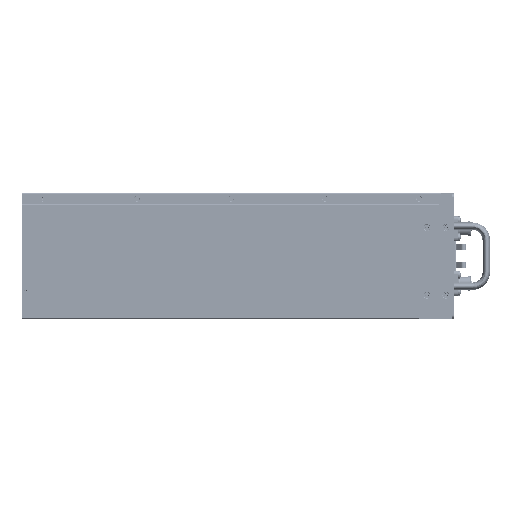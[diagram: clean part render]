
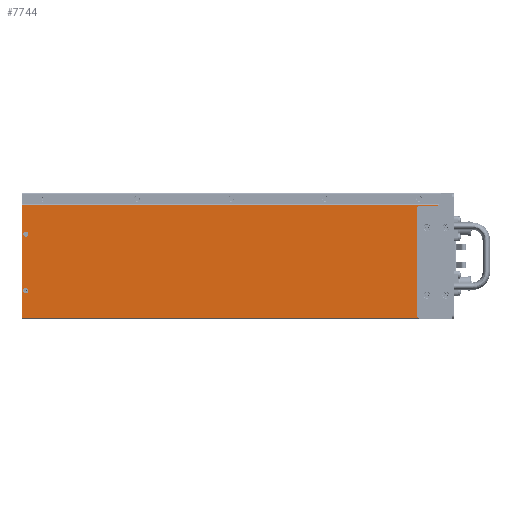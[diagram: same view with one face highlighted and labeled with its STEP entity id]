
A CAD part, left-side view. The second image highlights one B-rep face of the part: STEP entity #7744.
In plain terms, the highlighted planar face has unit normal (-1, 0, 0).
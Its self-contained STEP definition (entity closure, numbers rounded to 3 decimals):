
#2591=DIRECTION('',(0.,0.,-1.));
#2592=VECTOR('',#2591,119.8);
#2593=CARTESIAN_POINT('',(-220.,222.,121.));
#2594=LINE('',#2593,#2592);
#2605=CARTESIAN_POINT('',(-220.,-208.3,97.));
#2606=DIRECTION('',(-1.,0.,0.));
#2607=DIRECTION('',(0.,1.,0.));
#2608=AXIS2_PLACEMENT_3D('',#2605,#2606,#2607);
#2613=CARTESIAN_POINT('',(-220.,-208.3,97.));
#2614=DIRECTION('',(-1.,0.,0.));
#2615=DIRECTION('',(0.,-1.,0.));
#2616=AXIS2_PLACEMENT_3D('',#2613,#2614,#2615);
#2621=CARTESIAN_POINT('',(-220.,-208.3,25.));
#2622=DIRECTION('',(-1.,0.,0.));
#2623=DIRECTION('',(0.,1.,0.));
#2624=AXIS2_PLACEMENT_3D('',#2621,#2622,#2623);
#2629=CARTESIAN_POINT('',(-220.,-208.3,25.));
#2630=DIRECTION('',(-1.,0.,0.));
#2631=DIRECTION('',(0.,-1.,0.));
#2632=AXIS2_PLACEMENT_3D('',#2629,#2630,#2631);
#2637=CARTESIAN_POINT('',(-220.,218.,90.));
#2638=DIRECTION('',(-1.,0.,0.));
#2639=DIRECTION('',(0.,1.,0.));
#2640=AXIS2_PLACEMENT_3D('',#2637,#2638,#2639);
#2645=CARTESIAN_POINT('',(-220.,218.,90.));
#2646=DIRECTION('',(-1.,0.,0.));
#2647=DIRECTION('',(0.,0.,-1.));
#2648=AXIS2_PLACEMENT_3D('',#2645,#2646,#2647);
#2653=CARTESIAN_POINT('',(-220.,218.,90.));
#2654=DIRECTION('',(-1.,0.,0.));
#2655=DIRECTION('',(0.,-1.,0.));
#2656=AXIS2_PLACEMENT_3D('',#2653,#2654,#2655);
#2661=CARTESIAN_POINT('',(-220.,218.,90.));
#2662=DIRECTION('',(-1.,0.,0.));
#2663=DIRECTION('',(0.,0.,1.));
#2664=AXIS2_PLACEMENT_3D('',#2661,#2662,#2663);
#2669=CARTESIAN_POINT('',(-220.,218.,30.));
#2670=DIRECTION('',(-1.,0.,0.));
#2671=DIRECTION('',(0.,1.,0.));
#2672=AXIS2_PLACEMENT_3D('',#2669,#2670,#2671);
#2677=CARTESIAN_POINT('',(-220.,218.,30.));
#2678=DIRECTION('',(-1.,0.,0.));
#2679=DIRECTION('',(0.,0.,-1.));
#2680=AXIS2_PLACEMENT_3D('',#2677,#2678,#2679);
#2685=CARTESIAN_POINT('',(-220.,218.,30.));
#2686=DIRECTION('',(-1.,0.,0.));
#2687=DIRECTION('',(0.,-1.,0.));
#2688=AXIS2_PLACEMENT_3D('',#2685,#2686,#2687);
#2693=CARTESIAN_POINT('',(-220.,218.,30.));
#2694=DIRECTION('',(-1.,0.,0.));
#2695=DIRECTION('',(0.,0.,1.));
#2696=AXIS2_PLACEMENT_3D('',#2693,#2694,#2695);
#2701=DIRECTION('',(0.,0.,1.));
#2702=VECTOR('',#2701,1.);
#2703=CARTESIAN_POINT('',(-220.,-222.,11.2));
#2704=LINE('',#2703,#2702);
#2737=DIRECTION('',(0.,0.,1.));
#2738=VECTOR('',#2737,108.8);
#2739=CARTESIAN_POINT('',(-220.,-222.,12.2));
#2740=LINE('',#2739,#2738);
#2996=DIRECTION('',(0.,1.,0.));
#2997=VECTOR('',#2996,444.);
#2998=CARTESIAN_POINT('',(-220.,-222.,121.));
#2999=LINE('',#2998,#2997);
#3539=DIRECTION('',(0.,-1.,0.));
#3540=VECTOR('',#3539,1.);
#3541=CARTESIAN_POINT('',(-220.,-222.,1.2));
#3542=LINE('',#3541,#3540);
#3553=DIRECTION('',(0.,0.,1.));
#3554=VECTOR('',#3553,10.);
#3555=CARTESIAN_POINT('',(-220.,-223.,1.2));
#3556=LINE('',#3555,#3554);
#3567=DIRECTION('',(0.,1.,0.));
#3568=VECTOR('',#3567,1.);
#3569=CARTESIAN_POINT('',(-220.,-223.,11.2));
#3570=LINE('',#3569,#3568);
#3983=DIRECTION('',(0.,-1.,0.));
#3984=VECTOR('',#3983,444.);
#3985=CARTESIAN_POINT('',(-220.,222.,1.2));
#3986=LINE('',#3985,#3984);
#6464=CARTESIAN_POINT('',(-220.,222.,1.2));
#6465=VERTEX_POINT('',#6464);
#6466=CARTESIAN_POINT('',(-220.,222.,121.));
#6467=VERTEX_POINT('',#6466);
#6470=CARTESIAN_POINT('',(-220.,-222.,11.2));
#6471=CARTESIAN_POINT('',(-220.,-222.,12.2));
#6472=VERTEX_POINT('',#6470);
#6473=VERTEX_POINT('',#6471);
#6474=CARTESIAN_POINT('',(-220.,-223.,11.2));
#6475=VERTEX_POINT('',#6474);
#6476=CARTESIAN_POINT('',(-220.,-223.,1.2));
#6477=VERTEX_POINT('',#6476);
#6478=CARTESIAN_POINT('',(-220.,-222.,1.2));
#6479=VERTEX_POINT('',#6478);
#6480=CARTESIAN_POINT('',(-220.,-222.,121.));
#6481=VERTEX_POINT('',#6480);
#6482=CARTESIAN_POINT('',(-220.,-206.05,97.));
#6483=CARTESIAN_POINT('',(-220.,-210.55,97.));
#6484=VERTEX_POINT('',#6482);
#6485=VERTEX_POINT('',#6483);
#6486=CARTESIAN_POINT('',(-220.,-206.05,25.));
#6487=CARTESIAN_POINT('',(-220.,-210.55,25.));
#6488=VERTEX_POINT('',#6486);
#6489=VERTEX_POINT('',#6487);
#6490=CARTESIAN_POINT('',(-220.,220.8,90.));
#6491=CARTESIAN_POINT('',(-220.,218.,87.2));
#6492=VERTEX_POINT('',#6490);
#6493=VERTEX_POINT('',#6491);
#6494=CARTESIAN_POINT('',(-220.,215.2,90.));
#6495=VERTEX_POINT('',#6494);
#6496=CARTESIAN_POINT('',(-220.,218.,92.8));
#6497=VERTEX_POINT('',#6496);
#6498=CARTESIAN_POINT('',(-220.,220.8,30.));
#6499=CARTESIAN_POINT('',(-220.,218.,27.2));
#6500=VERTEX_POINT('',#6498);
#6501=VERTEX_POINT('',#6499);
#6502=CARTESIAN_POINT('',(-220.,215.2,30.));
#6503=VERTEX_POINT('',#6502);
#6504=CARTESIAN_POINT('',(-220.,218.,32.8));
#6505=VERTEX_POINT('',#6504);
#7690=CARTESIAN_POINT('',(-220.,-222.,0.));
#7691=DIRECTION('',(-1.,0.,0.));
#7692=DIRECTION('',(0.,-1.,0.));
#7693=AXIS2_PLACEMENT_3D('',#7690,#7691,#7692);
#7694=PLANE('',#7693);
#7696=ORIENTED_EDGE('',*,*,#7695,.F.);
#7698=ORIENTED_EDGE('',*,*,#7697,.F.);
#7700=ORIENTED_EDGE('',*,*,#7699,.F.);
#7702=ORIENTED_EDGE('',*,*,#7701,.F.);
#7704=ORIENTED_EDGE('',*,*,#7703,.F.);
#7705=ORIENTED_EDGE('',*,*,#7673,.F.);
#7707=ORIENTED_EDGE('',*,*,#7706,.F.);
#7709=ORIENTED_EDGE('',*,*,#7708,.F.);
#7710=EDGE_LOOP('',(#7696,#7698,#7700,#7702,#7704,#7705,#7707,#7709));
#7711=FACE_OUTER_BOUND('',#7710,.F.);
#7713=ORIENTED_EDGE('',*,*,#7712,.T.);
#7715=ORIENTED_EDGE('',*,*,#7714,.T.);
#7716=EDGE_LOOP('',(#7713,#7715));
#7717=FACE_BOUND('',#7716,.F.);
#7719=ORIENTED_EDGE('',*,*,#7718,.T.);
#7721=ORIENTED_EDGE('',*,*,#7720,.T.);
#7722=EDGE_LOOP('',(#7719,#7721));
#7723=FACE_BOUND('',#7722,.F.);
#7725=ORIENTED_EDGE('',*,*,#7724,.T.);
#7727=ORIENTED_EDGE('',*,*,#7726,.T.);
#7729=ORIENTED_EDGE('',*,*,#7728,.T.);
#7731=ORIENTED_EDGE('',*,*,#7730,.T.);
#7732=EDGE_LOOP('',(#7725,#7727,#7729,#7731));
#7733=FACE_BOUND('',#7732,.F.);
#7735=ORIENTED_EDGE('',*,*,#7734,.T.);
#7737=ORIENTED_EDGE('',*,*,#7736,.T.);
#7739=ORIENTED_EDGE('',*,*,#7738,.T.);
#7741=ORIENTED_EDGE('',*,*,#7740,.T.);
#7742=EDGE_LOOP('',(#7735,#7737,#7739,#7741));
#7743=FACE_BOUND('',#7742,.F.);
#2609=CIRCLE('',#2608,2.25);
#2617=CIRCLE('',#2616,2.25);
#2625=CIRCLE('',#2624,2.25);
#2633=CIRCLE('',#2632,2.25);
#2641=CIRCLE('',#2640,2.8);
#2649=CIRCLE('',#2648,2.8);
#2657=CIRCLE('',#2656,2.8);
#2665=CIRCLE('',#2664,2.8);
#2673=CIRCLE('',#2672,2.8);
#2681=CIRCLE('',#2680,2.8);
#2689=CIRCLE('',#2688,2.8);
#2697=CIRCLE('',#2696,2.8);
#7673=EDGE_CURVE('',#6467,#6465,#2594,.T.);
#7695=EDGE_CURVE('',#6472,#6473,#2704,.T.);
#7697=EDGE_CURVE('',#6475,#6472,#3570,.T.);
#7699=EDGE_CURVE('',#6477,#6475,#3556,.T.);
#7701=EDGE_CURVE('',#6479,#6477,#3542,.T.);
#7703=EDGE_CURVE('',#6465,#6479,#3986,.T.);
#7706=EDGE_CURVE('',#6481,#6467,#2999,.T.);
#7708=EDGE_CURVE('',#6473,#6481,#2740,.T.);
#7712=EDGE_CURVE('',#6484,#6485,#2609,.T.);
#7714=EDGE_CURVE('',#6485,#6484,#2617,.T.);
#7718=EDGE_CURVE('',#6488,#6489,#2625,.T.);
#7720=EDGE_CURVE('',#6489,#6488,#2633,.T.);
#7724=EDGE_CURVE('',#6492,#6493,#2641,.T.);
#7726=EDGE_CURVE('',#6493,#6495,#2649,.T.);
#7728=EDGE_CURVE('',#6495,#6497,#2657,.T.);
#7730=EDGE_CURVE('',#6497,#6492,#2665,.T.);
#7734=EDGE_CURVE('',#6500,#6501,#2673,.T.);
#7736=EDGE_CURVE('',#6501,#6503,#2681,.T.);
#7738=EDGE_CURVE('',#6503,#6505,#2689,.T.);
#7740=EDGE_CURVE('',#6505,#6500,#2697,.T.);
#7744=ADVANCED_FACE('',(#7711,#7717,#7723,#7733,#7743),#7694,.T.);
